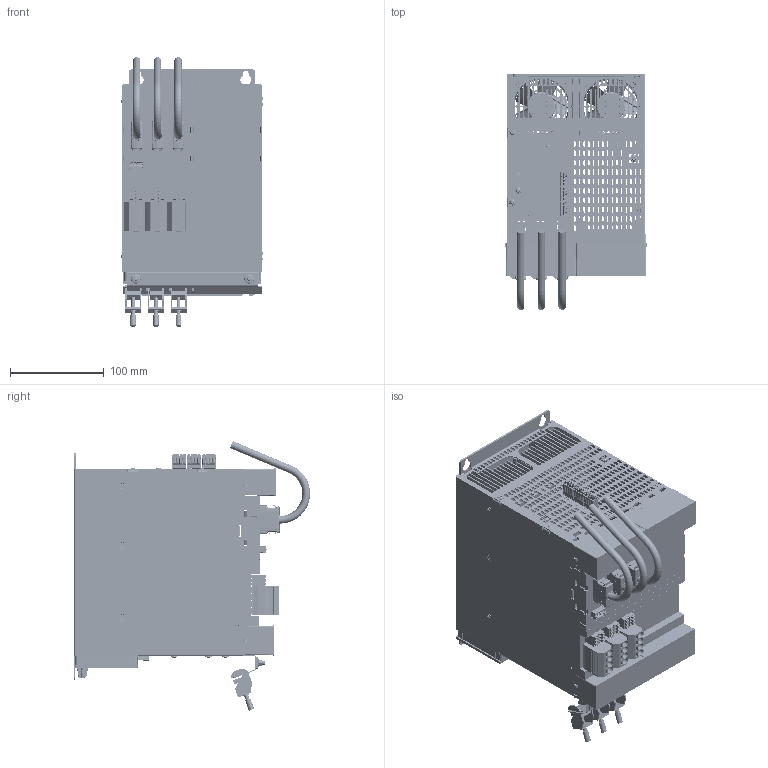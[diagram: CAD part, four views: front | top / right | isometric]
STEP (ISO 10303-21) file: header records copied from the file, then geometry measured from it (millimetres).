
FILE_DESCRIPTION (( 'STEP AP214' ), '1' );
FILE_NAME ('_MDD2200_Export_20210611.STEP', '2021-06-11T08:13:03', ( 'Windows-Benutzer' ), ( '' ), 'SwSTEP 2.0', 'SolidWorks 2020', '' );
FILE_SCHEMA (( 'AUTOMOTIVE_DESIGN' ));
Length unit declared in the file: millimetre
Products named in the file (33): Papst_Fan-Body 60x60x25; ZExxxx-5130-x11 Positionierung MDD2000_Positionierung 3-Slot; ZExxxx-5280-x2 Gehäuse MDD2200 Achsmodul; BVF 7.62HP_04_180 BCF_06R SN BK BX 1080440000; ZExxxx-4753-x3 Streufolie MDD2100_3 Achser; Linsenflanschkopf M3x10-Torx_0304055923 Button head socket screw ISO 7380 M4x35; 3026874_SK 14-D; ZExxxx-5242-x2 MDD2100 Montageverbinder Erdung; ZExxxx-5285-x2 Abdeckung MDD2200 Achsmodul; ZExxxx-4668-x10 ZWK-Verbinder; Senkschraube DIN7991_8.8 verinkt M3 x 8 TX10; fh_m4_10; s_m3_1; 3030301126 Linsenflanschkopf ISO7380 (Torx) - M3x8 Teclack_0304055923 Button head socket screw ISO 7380 M4x35; ZExxxx-4509-x12 L黤terk鋐ig 60x60 Spreizniete; Papst Lüfter 60x60x25; Zexxxx-4506-x9 Gebergehäuse MDD2000_3 Slot Art. Nr. 3030203398-3; _MDD2200_Export_20210611; ZExxxx-5130-x11 Positionierung MDD2000_Positionierung 0-Slot; 3030262223 M4 Sechskantmutter mit Flansch und Verzahnung; DH30B-27S_DH-27-CT1B; ZExxxx-4753-x3 Streufolie MDD2100_unbedruckt; MDD2000-LUEFTER-00_Lüfter mit Gehäuse; ZExxxx-4478-x10 24V-Verbinder; Dummy_ZM2013-5033-XX feedback cable MDD2000_ohne Stecker; Linsenflanschkopf M3x6-Torx_0304055923 Button head socket screw ISO 7380 M4x35; 4110262172 4pol.Federkraftstecker f.2reih 1705390; ZExxxx-4999-x6 K黨lk鰎per MDD2200; LR 60x60x25; Zexxxx-4506-x9 Gebergehäuse MDD2000_Gebergeh„use 0-Slot; Dummy_ZM2013-5033-XX Geberkabel MDD2000_kurz
Assembly tree (73 placements, depth 4):
  _MDD2200_Export_20210611
    ZExxxx-4999-x6 K黨lk鰎per MDD2200
    ZExxxx-5130-x11 Positionierung MDD2000_Positionierung 3-Slot
    ZExxxx-5130-x11 Positionierung MDD2000_Positionierung 0-Slot
    Zexxxx-4506-x9 Gebergehäuse MDD2000_3 Slot Art. Nr. 3030203398-3
    Zexxxx-4506-x9 Gebergehäuse MDD2000_Gebergeh„use 0-Slot
    ZExxxx-4668-x10 ZWK-Verbinder  x2
    ZExxxx-4478-x10 24V-Verbinder  x2
    ZExxxx-4753-x3 Streufolie MDD2100_3 Achser
    ZExxxx-4753-x3 Streufolie MDD2100_unbedruckt
    ZExxxx-5280-x2 Gehäuse MDD2200 Achsmodul
      ZExxxx-5280-x2 Gehäuse MDD2200 Achsmodul
      s_m3_1  x4
      fh_m4_10  x2
    ZExxxx-5285-x2 Abdeckung MDD2200 Achsmodul
      ZExxxx-5285-x2 Abdeckung MDD2200 Achsmodul
      s_m3_1  x5
    MDD2000-LUEFTER-00_Lüfter mit Gehäuse  x2
      ZExxxx-4509-x12 L黤terk鋐ig 60x60 Spreizniete
      Papst Lüfter 60x60x25
        Papst_Fan-Body 60x60x25
        LR 60x60x25
    Linsenflanschkopf M3x6-Torx_0304055923 Button head socket screw ISO 7380 M4x35  x12
    Linsenflanschkopf M3x10-Torx_0304055923 Button head socket screw ISO 7380 M4x35
    Senkschraube DIN7991_8.8 verinkt M3 x 8 TX10  x6
    ZExxxx-5242-x2 MDD2100 Montageverbinder Erdung
    3030262223 M4 Sechskantmutter mit Flansch und Verzahnung  x2
    3030301126 Linsenflanschkopf ISO7380 (Torx) - M3x8 Teclack_0304055923 Button head socket screw ISO 7380 M4x35  x2
    BVF 7.62HP_04_180 BCF_06R SN BK BX 1080440000  x3
    4110262172 4pol.Federkraftstecker f.2reih 1705390  x4
    DH30B-27S_DH-27-CT1B  x3
    3026874_SK 14-D  x3
    Dummy_ZM2013-5033-XX feedback cable MDD2000_ohne Stecker  x3
      Dummy_ZM2013-5033-XX Geberkabel MDD2000_kurz
Bounding box: 151.8 x 252.4 x 288.12 mm (x, y, z)
Volume: 1163281.4 mm3; surface area: 1242330.7 mm2
Topology: 74 solids, 74 shells, 16377 faces, 46827 edges, 30734 vertices
Faces by surface type: plane 9246, cylinder 5732, cone 721, bspline 577, torus 89, sphere 12
Full cylindrical faces by diameter (mm): 0.457 x4, 1.6 x15, 1.7 x18, 2.459 x9, 2.5 x13, 3 x39, 3.1 x2, 3.3 x8, 3.5 x8, 4 x17, 4.1 x6, 4.22 x9, 4.3 x25, 4.5 x1, 4.976 x9, 5 x4, 5.017 x2, 5.171 x2, 5.2 x4, 5.6 x6, 6 x10, 6.3 x9, 6.7 x3, 6.9 x12, 8 x8, 9 x3, 10 x3, 10.8 x3, 30 x2
Entity records: 380545 total; most frequent: CARTESIAN_POINT 83947, ORIENTED_EDGE 62518, DIRECTION 59224, EDGE_CURVE 31259, VERTEX_POINT 20754, VECTOR 20606, LINE 20606, AXIS2_PLACEMENT_3D 19309
